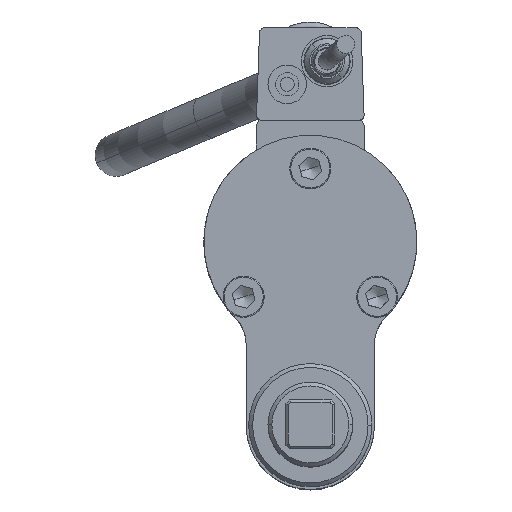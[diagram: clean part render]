
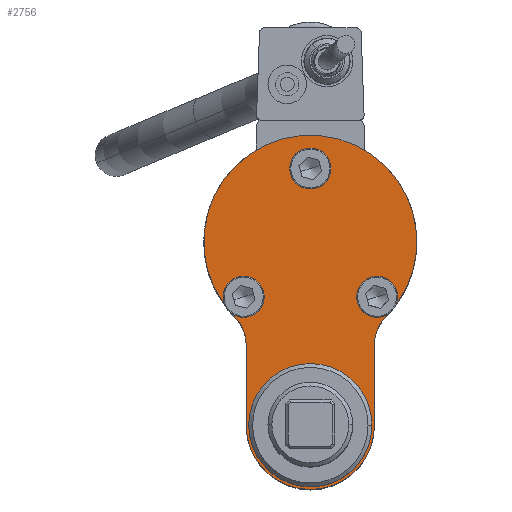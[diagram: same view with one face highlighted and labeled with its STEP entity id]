
A CAD part, top view. The second image highlights one B-rep face of the part: STEP entity #2756.
In plain terms, the highlighted planar face has unit normal (0, 0, 1).
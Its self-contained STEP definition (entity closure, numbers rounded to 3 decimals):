
#2492=AXIS2_PLACEMENT_3D('Circle Axis2P3D',#2490,#2491,$) ;
#2518=AXIS2_PLACEMENT_3D('Circle Axis2P3D',#2516,#2517,$) ;
#2621=AXIS2_PLACEMENT_3D('Circle Axis2P3D',#2619,#2620,$) ;
#2647=AXIS2_PLACEMENT_3D('Circle Axis2P3D',#2645,#2646,$) ;
#2660=AXIS2_PLACEMENT_3D('Plane Axis2P3D',#2657,#2658,#2659) ;
#2664=AXIS2_PLACEMENT_3D('Circle Axis2P3D',#2662,#2663,$) ;
#2673=AXIS2_PLACEMENT_3D('Circle Axis2P3D',#2671,#2672,$) ;
#2687=AXIS2_PLACEMENT_3D('Circle Axis2P3D',#2685,#2686,$) ;
#2701=AXIS2_PLACEMENT_3D('Circle Axis2P3D',#2699,#2700,$) ;
#2714=AXIS2_PLACEMENT_3D('Circle Axis2P3D',#2712,#2713,$) ;
#2723=AXIS2_PLACEMENT_3D('Circle Axis2P3D',#2721,#2722,$) ;
#2736=AXIS2_PLACEMENT_3D('Circle Axis2P3D',#2734,#2735,$) ;
#2745=AXIS2_PLACEMENT_3D('Circle Axis2P3D',#2743,#2744,$) ;
#2490=CARTESIAN_POINT('Axis2P3D Location',(26.,-21.5,483.6)) ;
#2494=CARTESIAN_POINT('Vertex',(21.447,-19.013,483.6)) ;
#2496=CARTESIAN_POINT('Vertex',(30.553,-23.987,483.6)) ;
#2516=CARTESIAN_POINT('Axis2P3D Location',(26.,-21.5,483.6)) ;
#2619=CARTESIAN_POINT('Axis2P3D Location',(-26.,-21.5,483.6)) ;
#2623=CARTESIAN_POINT('Vertex',(-30.553,-19.013,483.6)) ;
#2625=CARTESIAN_POINT('Vertex',(-21.447,-23.987,483.6)) ;
#2645=CARTESIAN_POINT('Axis2P3D Location',(-26.,-21.5,483.6)) ;
#2657=CARTESIAN_POINT('Axis2P3D Location',(0.,0.,483.6)) ;
#2662=CARTESIAN_POINT('Axis2P3D Location',(0.,0.,483.6)) ;
#2666=CARTESIAN_POINT('Vertex',(29.381,-29.309,483.6)) ;
#2668=CARTESIAN_POINT('Vertex',(-29.381,-29.309,483.6)) ;
#2671=CARTESIAN_POINT('Axis2P3D Location',(-40.,-39.903,483.6)) ;
#2675=CARTESIAN_POINT('Vertex',(-25.,-39.903,483.6)) ;
#2678=CARTESIAN_POINT('Line Origine',(-25.,-55.702,483.6)) ;
#2682=CARTESIAN_POINT('Vertex',(-25.,-71.5,483.6)) ;
#2685=CARTESIAN_POINT('Axis2P3D Location',(0.,-71.5,483.6)) ;
#2689=CARTESIAN_POINT('Vertex',(25.,-71.5,483.6)) ;
#2692=CARTESIAN_POINT('Line Origine',(25.,-55.702,483.6)) ;
#2696=CARTESIAN_POINT('Vertex',(25.,-39.903,483.6)) ;
#2699=CARTESIAN_POINT('Axis2P3D Location',(40.,-39.903,483.6)) ;
#2712=CARTESIAN_POINT('Axis2P3D Location',(0.,28.5,483.6)) ;
#2716=CARTESIAN_POINT('Vertex',(-4.553,30.987,483.6)) ;
#2718=CARTESIAN_POINT('Vertex',(4.553,26.013,483.6)) ;
#2721=CARTESIAN_POINT('Axis2P3D Location',(0.,28.5,483.6)) ;
#2734=CARTESIAN_POINT('Axis2P3D Location',(0.,-71.5,483.6)) ;
#2738=CARTESIAN_POINT('Vertex',(24.,-71.5,483.6)) ;
#2740=CARTESIAN_POINT('Vertex',(-24.,-71.5,483.6)) ;
#2743=CARTESIAN_POINT('Axis2P3D Location',(0.,-71.5,483.6)) ;
#2491=DIRECTION('Axis2P3D Direction',(0.,0.,1.)) ;
#2517=DIRECTION('Axis2P3D Direction',(0.,0.,1.)) ;
#2620=DIRECTION('Axis2P3D Direction',(0.,0.,1.)) ;
#2646=DIRECTION('Axis2P3D Direction',(0.,0.,1.)) ;
#2658=DIRECTION('Axis2P3D Direction',(0.,0.,1.)) ;
#2659=DIRECTION('Axis2P3D XDirection',(1.,0.,0.)) ;
#2663=DIRECTION('Axis2P3D Direction',(0.,0.,1.)) ;
#2672=DIRECTION('Axis2P3D Direction',(0.,0.,1.)) ;
#2679=DIRECTION('Vector Direction',(0.,1.,0.)) ;
#2686=DIRECTION('Axis2P3D Direction',(0.,0.,1.)) ;
#2693=DIRECTION('Vector Direction',(0.,1.,0.)) ;
#2700=DIRECTION('Axis2P3D Direction',(0.,0.,1.)) ;
#2713=DIRECTION('Axis2P3D Direction',(0.,0.,1.)) ;
#2722=DIRECTION('Axis2P3D Direction',(0.,0.,1.)) ;
#2735=DIRECTION('Axis2P3D Direction',(0.,0.,1.)) ;
#2744=DIRECTION('Axis2P3D Direction',(0.,0.,1.)) ;
#2680=VECTOR('Line Direction',#2679,1.) ;
#2694=VECTOR('Line Direction',#2693,1.) ;
#2705=ORIENTED_EDGE('',*,*,#2670,.T.) ;
#2706=ORIENTED_EDGE('',*,*,#2677,.T.) ;
#2707=ORIENTED_EDGE('',*,*,#2684,.T.) ;
#2708=ORIENTED_EDGE('',*,*,#2691,.T.) ;
#2709=ORIENTED_EDGE('',*,*,#2698,.T.) ;
#2710=ORIENTED_EDGE('',*,*,#2703,.T.) ;
#2727=ORIENTED_EDGE('',*,*,#2720,.F.) ;
#2728=ORIENTED_EDGE('',*,*,#2725,.F.) ;
#2731=ORIENTED_EDGE('',*,*,#2627,.F.) ;
#2732=ORIENTED_EDGE('',*,*,#2649,.F.) ;
#2749=ORIENTED_EDGE('',*,*,#2742,.F.) ;
#2750=ORIENTED_EDGE('',*,*,#2747,.F.) ;
#2753=ORIENTED_EDGE('',*,*,#2498,.F.) ;
#2754=ORIENTED_EDGE('',*,*,#2520,.F.) ;
#2729=FACE_BOUND('',#2726,.T.) ;
#2733=FACE_BOUND('',#2730,.T.) ;
#2751=FACE_BOUND('',#2748,.T.) ;
#2755=FACE_BOUND('',#2752,.T.) ;
#2756=ADVANCED_FACE('AOD-350-300.1\\AOD350-300.1\\Hauptk\X2\00F6\X0\rper',(#2711,#2729,#2733,#2751,#2755),#2661,.T.) ;
#2493=CIRCLE('generated circle',#2492,5.188) ;
#2519=CIRCLE('generated circle',#2518,5.188) ;
#2622=CIRCLE('generated circle',#2621,5.188) ;
#2648=CIRCLE('generated circle',#2647,5.188) ;
#2665=CIRCLE('generated circle',#2664,41.5) ;
#2674=CIRCLE('generated circle',#2673,15.) ;
#2688=CIRCLE('generated circle',#2687,25.) ;
#2702=CIRCLE('generated circle',#2701,15.) ;
#2715=CIRCLE('generated circle',#2714,5.188) ;
#2724=CIRCLE('generated circle',#2723,5.188) ;
#2737=CIRCLE('generated circle',#2736,24.) ;
#2746=CIRCLE('generated circle',#2745,24.) ;
#2498=EDGE_CURVE('',#2495,#2497,#2493,.T.) ;
#2520=EDGE_CURVE('',#2497,#2495,#2519,.T.) ;
#2627=EDGE_CURVE('',#2624,#2626,#2622,.T.) ;
#2649=EDGE_CURVE('',#2626,#2624,#2648,.T.) ;
#2670=EDGE_CURVE('',#2667,#2669,#2665,.T.) ;
#2677=EDGE_CURVE('',#2669,#2676,#2674,.F.) ;
#2684=EDGE_CURVE('',#2676,#2683,#2681,.F.) ;
#2691=EDGE_CURVE('',#2683,#2690,#2688,.T.) ;
#2698=EDGE_CURVE('',#2690,#2697,#2695,.T.) ;
#2703=EDGE_CURVE('',#2697,#2667,#2702,.F.) ;
#2720=EDGE_CURVE('',#2717,#2719,#2715,.T.) ;
#2725=EDGE_CURVE('',#2719,#2717,#2724,.T.) ;
#2742=EDGE_CURVE('',#2739,#2741,#2737,.T.) ;
#2747=EDGE_CURVE('',#2741,#2739,#2746,.T.) ;
#2704=EDGE_LOOP('',(#2705,#2706,#2707,#2708,#2709,#2710)) ;
#2726=EDGE_LOOP('',(#2727,#2728)) ;
#2730=EDGE_LOOP('',(#2731,#2732)) ;
#2748=EDGE_LOOP('',(#2749,#2750)) ;
#2752=EDGE_LOOP('',(#2753,#2754)) ;
#2711=FACE_OUTER_BOUND('',#2704,.T.) ;
#2681=LINE('Line',#2678,#2680) ;
#2695=LINE('Line',#2692,#2694) ;
#2661=PLANE('Plane',#2660) ;
#2495=VERTEX_POINT('',#2494) ;
#2497=VERTEX_POINT('',#2496) ;
#2624=VERTEX_POINT('',#2623) ;
#2626=VERTEX_POINT('',#2625) ;
#2667=VERTEX_POINT('',#2666) ;
#2669=VERTEX_POINT('',#2668) ;
#2676=VERTEX_POINT('',#2675) ;
#2683=VERTEX_POINT('',#2682) ;
#2690=VERTEX_POINT('',#2689) ;
#2697=VERTEX_POINT('',#2696) ;
#2717=VERTEX_POINT('',#2716) ;
#2719=VERTEX_POINT('',#2718) ;
#2739=VERTEX_POINT('',#2738) ;
#2741=VERTEX_POINT('',#2740) ;
